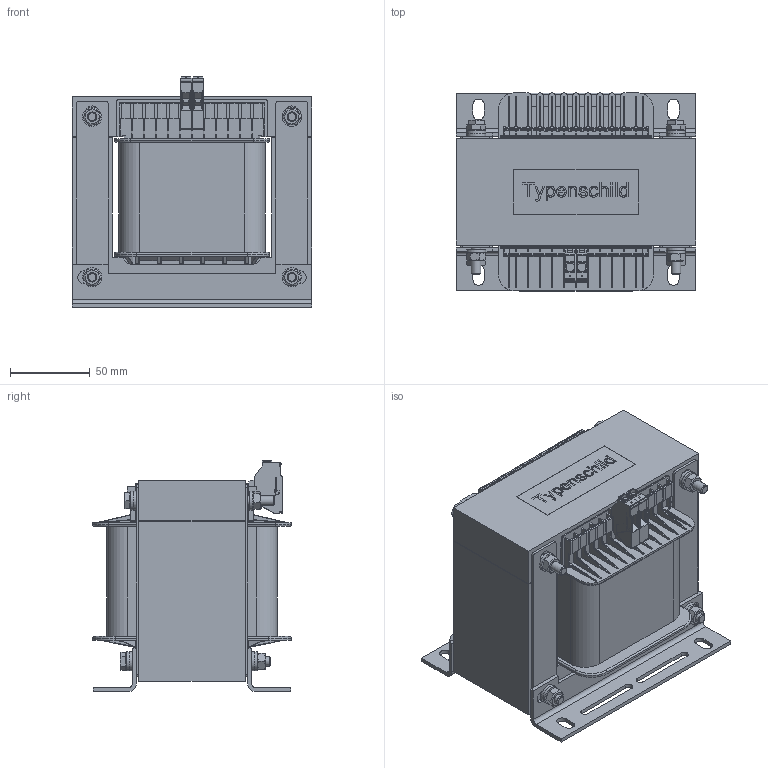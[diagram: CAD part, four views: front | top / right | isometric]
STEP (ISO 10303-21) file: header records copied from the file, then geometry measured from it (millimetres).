
FILE_DESCRIPTION(/* description */ (''),/* implementation_level */ '2;1');
FILE_NAME(/* name */ 'DEG0,8 10A.stp',/* time_stamp */ '2023-09-20T17:14:58+02:00',/* author */ ('EnneJ'),/* organization */ (''),/* preprocessor_version */ 'ST-DEVELOPER v19.2',/* originating_system */ 'Autodesk Inventor 2023',/* authorisation */ '');
FILE_SCHEMA (('AUTOMOTIVE_DESIGN { 1 0 10303 214 3 1 1 }'));
Products named in the file (13): X0001 DE 002; Norm (DIN); Norm (DIN)_1; EI150Nb_66_6_25276_4_1Ka; Norm (DIN)_2; BFW 01 001; Leistungsschild 78x28; 1222_TKS_4_1; Norm (DIN)_3; Arzner Gr 6; ISO 4032 - M6; DIN 125 - A 6,4; ISO 4014 - M6 x 60
Assembly tree (36 placements, depth 2):
  X0001 DE 002
    Norm (DIN)
    Norm (DIN)_1
    EI150Nb_66_6_25276_4_1Ka
    Norm (DIN)_2
    BFW 01 001  x2
    1222_TKS_4_1  x2
    Leistungsschild 78x28
    Norm (DIN)_3  x4
    Arzner Gr 6  x7
    DIN 125 - A 6,4  x8
    ISO 4032 - M6  x4
    ISO 4014 - M6 x 60  x4
Bounding box: 150 x 124 x 144.75 mm (x, y, z)
Volume: 1533023.4 mm3; surface area: 333513.7 mm2
Topology: 36 solids, 36 shells, 3966 faces, 11001 edges, 7170 vertices
Faces by surface type: plane 3016, cylinder 627, bspline 161, torus 118, cone 44
Full cylindrical faces by diameter (mm): 4.917 x4, 6 x4, 6.1 x7, 6.4 x8, 7.6 x7, 8 x4, 8.88 x4, 12 x15
Entity records: 78172 total; most frequent: CARTESIAN_POINT 15981, ORIENTED_EDGE 13340, DIRECTION 12139, EDGE_CURVE 6670, LINE 5397, VECTOR 5397, VERTEX_POINT 4340, AXIS2_PLACEMENT_3D 3371
